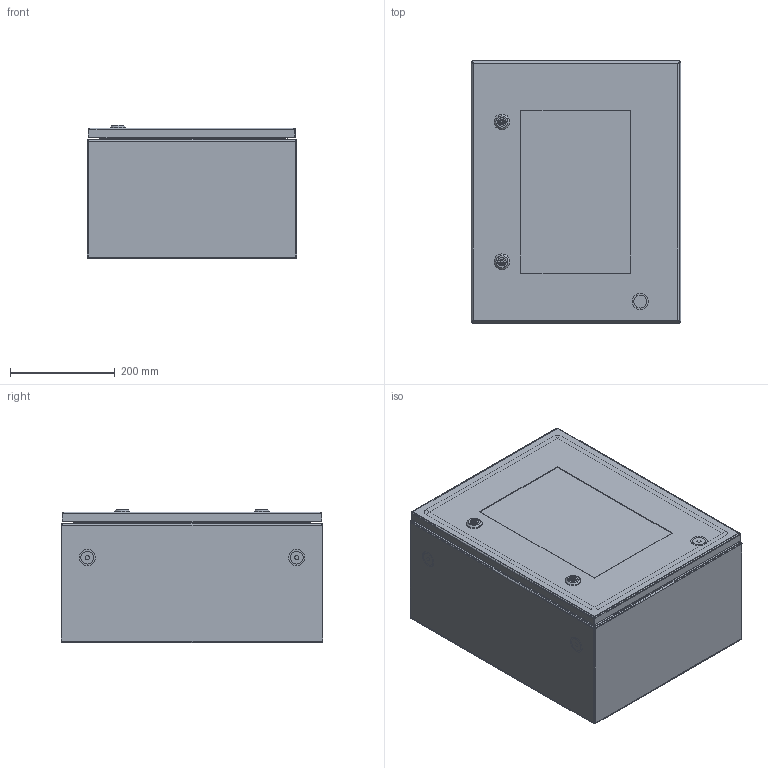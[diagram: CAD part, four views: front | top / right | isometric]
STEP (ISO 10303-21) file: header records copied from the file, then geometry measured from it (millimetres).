
FILE_DESCRIPTION (( 'STEP AP214' ), '1' );
FILE_NAME ('CSV 50.40.25 Øêàô ñ îáçîðíîé äâåðüþ èç íåðæ. ñòàëè.STEP', '2025-09-19T06:00:23', ( '' ), ( '' ), 'SwSTEP 2.0', 'SolidWorks 2019', '' );
FILE_SCHEMA (( 'AUTOMOTIVE_DESIGN' ));
Length unit declared in the file: millimetre
Products named in the file (25): Ïåòëÿ ïðèâàðíàÿ ÷àñòü_íåðæ; CSV X.Y.02.001 拟屦黖CSV 50.40; plain washer grade a_din_Washer DIN 125 - A 5.3; CSV 50.40.25 Øêàô ñ îáçîðíîé äâåðüþ èç íåðæ. ñòàëè; pan head cross recess screw_din_DIN EN ISO 7045 - M5 x 6 - Z - 6N; CSS X.Y.Z.01.000ÑÁ Êîðïóñ øêàôà ñâàðíîé_CSS 50.40.25; Øïèëüêà çàçåìëåíèÿ Ì6õ17,5_˜¯¨«ìª  § §¥¬«¥­¨ï Œ6å17,5 á ª®«¯ çª®¬; Øïèëüêà Ì8õ25; Essentra_d6,3_1287228; CSV X.Y.02.000蚜 拟屦黖CSV 50.40; Ïåòëÿ KIT_Ìîäóëü_êîðïóñíàÿ ÷àñòü; ﾇ瑟鶴 LC 5DB.S; Ïåòëÿ KIT_Ìîäóëü_êîðïóñíàÿ ÷àñòü â ñáîðå; MPC X.Y Ïàíåëü ìîíòàæíàÿ_MPC 50.40; hex flange nut_din_Hexagon Flange Nut DIN 6923 - M8 - N; KIT_Çàæèìíîå êîëüöî_ïîëèîêñèìåòèëåí_ô5_EMKA 1031-U16; Øïèëüêà çàçåìëåíèÿ Ì6õ17,5_˜¯¨«ìª  § §¥¬«¥­¨ï Œ6å17,5; ßçû÷îê çàìêà LC 5DB.S; CSS X.Y.Z.01.001 扻豵鵨_CSS 50.40.25; Çàìîê LC 5DB.S_‡ ¬®ª LC 5DB.S_45mm; KIT_Øòèôò_ô5_Ìîäóëü; CCV X.Y.02.002 栺樏鋋_CCV 50.40; Ãàéêà Ì8 DIN 934
Assembly tree (47 placements, depth 3):
  CSV 50.40.25 Øêàô ñ îáçîðíîé äâåðüþ èç íåðæ. ñòàëè
    CSS X.Y.Z.01.000ÑÁ Êîðïóñ øêàôà ñâàðíîé_CSS 50.40.25
      CSS X.Y.Z.01.001 扻豵鵨_CSS 50.40.25
      Øïèëüêà çàçåìëåíèÿ Ì6õ17,5_˜¯¨«ìª  § §¥¬«¥­¨ï Œ6å17,5  x4
      Øïèëüêà Ì8õ25  x4
    Ïåòëÿ KIT_Ìîäóëü_êîðïóñíàÿ ÷àñòü â ñáîðå
      Ïåòëÿ KIT_Ìîäóëü_êîðïóñíàÿ ÷àñòü
      KIT_Øòèôò_ô5_Ìîäóëü
      KIT_Çàæèìíîå êîëüöî_ïîëèîêñèìåòèëåí_ô5_EMKA 1031-U16
    Ïåòëÿ KIT_Ìîäóëü_êîðïóñíàÿ ÷àñòü â ñáîðå
      Ïåòëÿ KIT_Ìîäóëü_êîðïóñíàÿ ÷àñòü
      KIT_Øòèôò_ô5_Ìîäóëü
      KIT_Çàæèìíîå êîëüöî_ïîëèîêñèìåòèëåí_ô5_EMKA 1031-U16
    CSV X.Y.02.000蚜 拟屦黖CSV 50.40
      CSV X.Y.02.001 拟屦黖CSV 50.40
      Øïèëüêà çàçåìëåíèÿ Ì6õ17,5_˜¯¨«ìª  § §¥¬«¥­¨ï Œ6å17,5 á ª®«¯ çª®¬
      CCV X.Y.02.002 栺樏鋋_CCV 50.40
      Ïåòëÿ ïðèâàðíàÿ ÷àñòü_íåðæ  x2
    MPC X.Y Ïàíåëü ìîíòàæíàÿ_MPC 50.40
    pan head cross recess screw_din_DIN EN ISO 7045 - M5 x 6 - Z - 6N  x2
    plain washer grade a_din_Washer DIN 125 - A 5.3  x2
    Ãàéêà Ì8 DIN 934  x5
    hex flange nut_din_Hexagon Flange Nut DIN 6923 - M8 - N  x5
    Essentra_d6,3_1287228  x2
    Çàìîê LC 5DB.S_‡ ¬®ª LC 5DB.S_45mm
      ﾇ瑟鶴 LC 5DB.S
      ßçû÷îê çàìêà LC 5DB.S
    Çàìîê LC 5DB.S_‡ ¬®ª LC 5DB.S_45mm
      ﾇ瑟鶴 LC 5DB.S
      ßçû÷îê çàìêà LC 5DB.S
Bounding box: 400 x 500 x 254.25 mm (x, y, z)
Volume: 2020587.2 mm3; surface area: 2284011.9 mm2
Topology: 45 solids, 45 shells, 2036 faces, 4924 edges, 3026 vertices
Faces by surface type: cylinder 790, plane 696, cone 276, bspline 164, torus 94, sphere 16
Entity records: 45304 total; most frequent: CARTESIAN_POINT 19505, ORIENTED_EDGE 5212, DIRECTION 4842, EDGE_CURVE 2606, AXIS2_PLACEMENT_3D 1786, VERTEX_POINT 1604, VECTOR 1270, LINE 1270
